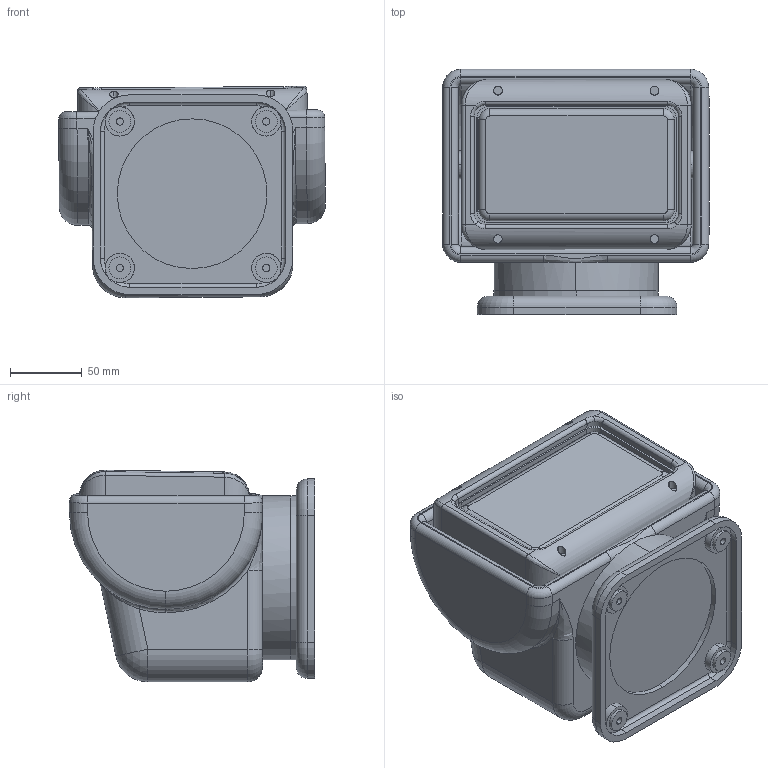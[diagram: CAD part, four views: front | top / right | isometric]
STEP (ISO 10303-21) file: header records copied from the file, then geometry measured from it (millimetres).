
FILE_DESCRIPTION (( 'STEP AP214' ), '1' );
FILE_NAME ('Radio Ray.STEP', '2010-09-18T01:31:05', ( 'Owner' ), ( 'HOME' ), 'SwSTEP 2.0', 'SolidWorks 2008', '' );
FILE_SCHEMA (( 'AUTOMOTIVE_DESIGN' ));
Length unit declared in the file: inch
Products named in the file (4): Case; Bottom; Lens; Radio Ray
Assembly tree (3 placements, depth 2):
  Radio Ray
    Bottom
    Lens
    Case
Bounding box: 185.84 x 170.94 x 147.53 mm (x, y, z)
Volume: 2065748.6 mm3; surface area: 294117.8 mm2
Topology: 3 solids, 3 shells, 286 faces, 663 edges, 400 vertices
Faces by surface type: cylinder 140, plane 77, torus 42, bspline 15, cone 8, sphere 4
Entity records: 9790 total; most frequent: CARTESIAN_POINT 3061, DIRECTION 1504, ORIENTED_EDGE 1314, EDGE_CURVE 657, AXIS2_PLACEMENT_3D 617, VERTEX_POINT 400, CIRCLE 340, EDGE_LOOP 317
